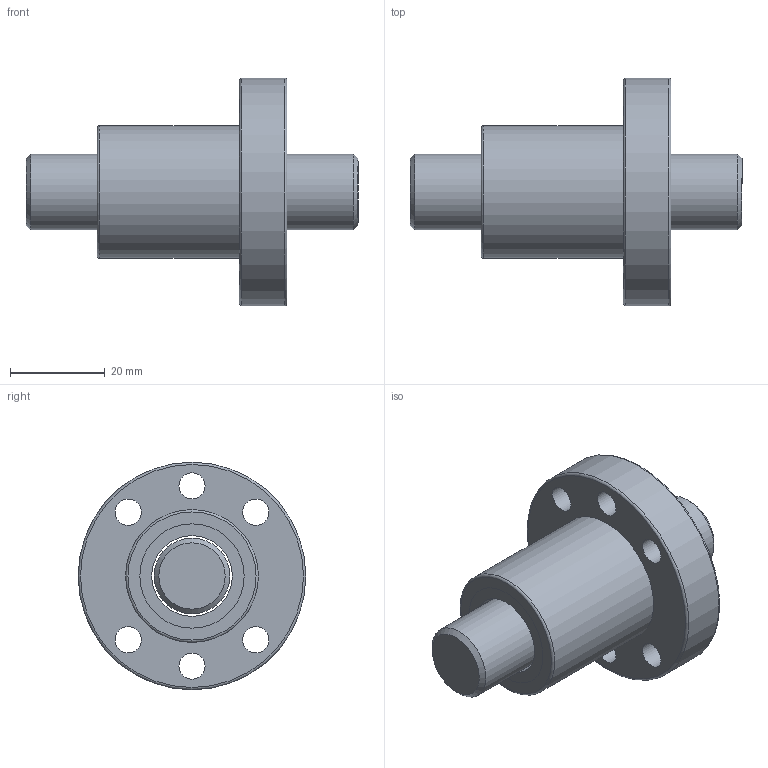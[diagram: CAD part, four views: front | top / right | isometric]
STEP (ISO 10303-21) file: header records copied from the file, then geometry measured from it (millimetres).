
FILE_DESCRIPTION(/* description */ (''),/* implementation_level */ '2;1');
FILE_NAME(/* name */ 'SFU1604',/* time_stamp */ '2007-10-26T13:24:40+08:00',/* author */ (''),/* organization */ (''),/* preprocessor_version */ 'ST-DEVELOPER v9',/* originating_system */ 'EDS PLM SOLUTIONS - UNIGRAPHICS NX 1.0',/* authorisation */ '');
FILE_SCHEMA (('CONFIG_CONTROL_DESIGN'));
Length unit declared in the file: millimetre
Products named in the file (1): FANNDA0400hv
Bounding box: 70 x 48 x 48 mm (x, y, z)
Volume: 40068.8 mm3; surface area: 15970.2 mm2
Topology: 4 solids, 4 shells, 32 faces, 58 edges, 37 vertices
Faces by surface type: cylinder 16, plane 11, torus 3, cone 2
Full cylindrical faces by diameter (mm): 5.5 x6, 16 x1, 17 x3, 22 x4, 28 x1, 48 x1
Entity records: 810 total; most frequent: DIRECTION 140, CARTESIAN_POINT 107, EDGE_LOOP 74, ORIENTED_EDGE 74, AXIS2_PLACEMENT_3D 70, FACE_BOUND 61, VERTEX_POINT 37, EDGE_CURVE 37
